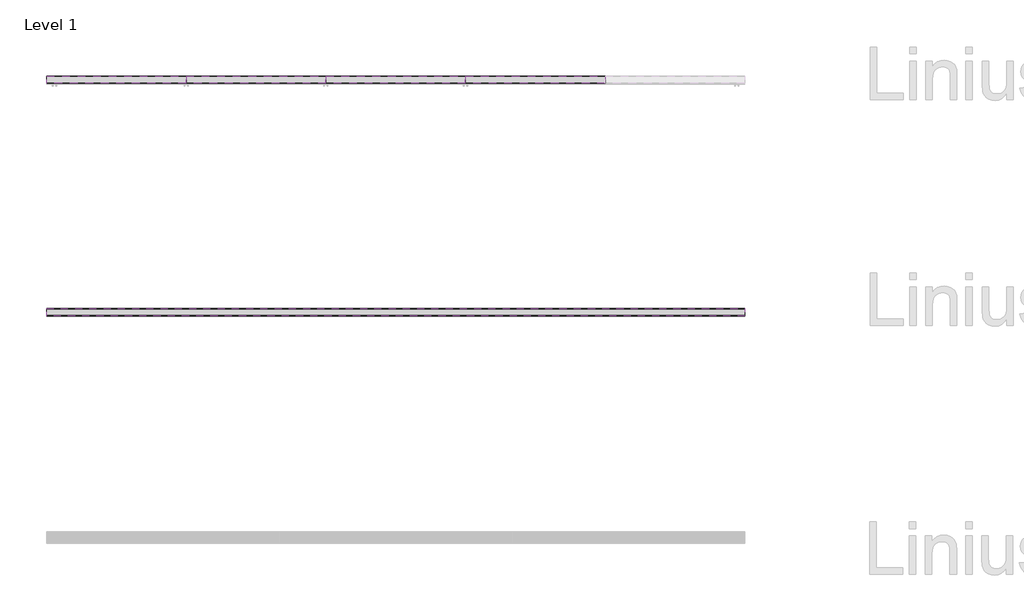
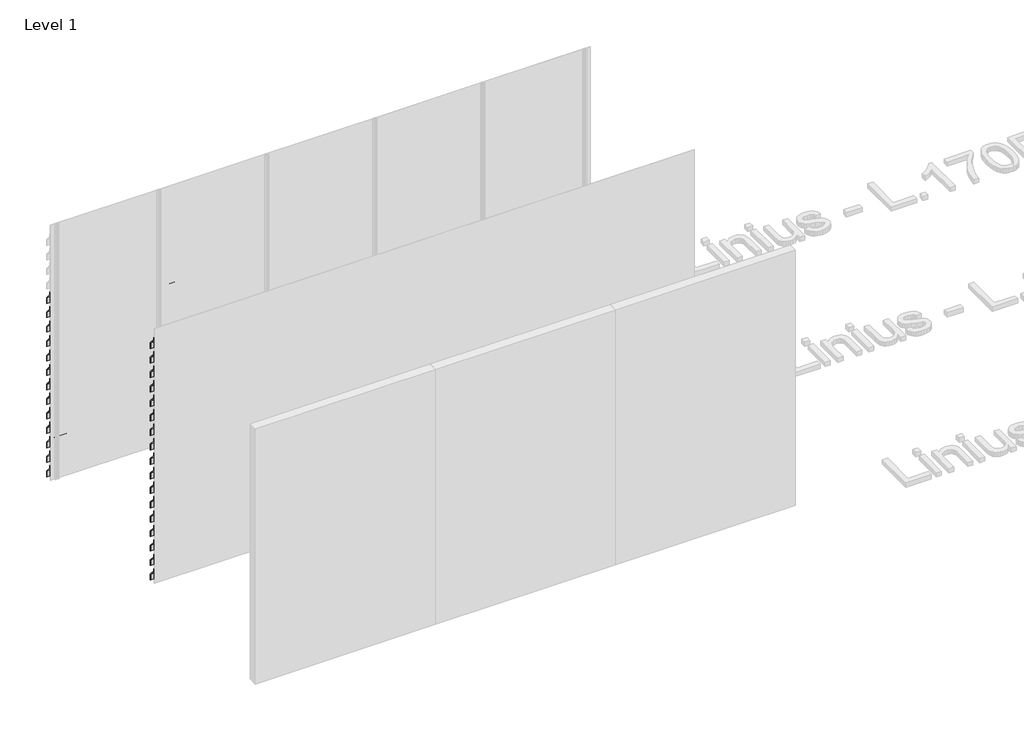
# One storey, part 114 of 121: 84 proxies.
"""IFC4 building model written with IfcOpenShell, lengths in millimetres."""

from ifc_helpers import new_model, si_unit, frame, origin, place, context, project, spatial, polyline, outline, extrude, element, save

model = new_model("IFC4")

# Units and contexts
model_context = context("Model", 3, world=origin())
ifc_project = project(units=[si_unit("LENGTHUNIT", "METRE", prefix="MILLI")], contexts=[model_context])

# Site, building, storey
site = spatial("IfcSite", under=ifc_project)
building = spatial("IfcBuilding", under=site)
storey = spatial("IfcBuildingStorey", under=building, Name="Level 1", Elevation=0.0)

# Proxies
placement = place(None, origin())
element("IfcBuildingElementProxy", 1, Name="Wall Sweeps", at=placement, inside=storey, context=model_context, shape_type="SweptSolid", body=[
    extrude(outline(polyline([(66552.5540136, 2109.0), (66552.5540136, 2040.0), (66550.5540136, 2040.9326153), (66550.5540136, 2108.2698755), (66490.0540136, 2180.0893276), (66490.0540136, 2210.0), (66492.0540136, 2210.0), (66492.0540136, 2180.8194521), (66552.5540136, 2109.0)])), frame((89466.6208097, 0.0, 0.0), z_axis=(1.0, 0.0, 0.0), x_axis=(0.0, 1.0, 0.0)), (0.0, 0.0, 1.0), 1200.0000002),
])
element("IfcBuildingElementProxy", 2, Name="Wall Sweeps", at=placement, inside=storey, context=model_context, shape_type="SweptSolid", body=[
    extrude(outline(polyline([(66552.5540136, 1939.0), (66552.5540136, 1870.0), (66550.5540136, 1870.9326153), (66550.5540136, 1938.2698755), (66490.0540136, 2010.0893276), (66490.0540136, 2040.0), (66492.0540136, 2040.0), (66492.0540136, 2010.8194521), (66552.5540136, 1939.0)])), frame((89466.6208097, 0.0, 0.0), z_axis=(1.0, 0.0, 0.0), x_axis=(0.0, 1.0, 0.0)), (0.0, 0.0, 1.0), 1200.0000002),
])
element("IfcBuildingElementProxy", 3, Name="Wall Sweeps", at=placement, inside=storey, context=model_context, shape_type="SweptSolid", body=[
    extrude(outline(polyline([(66552.5540136, 1769.0), (66552.5540136, 1700.0), (66550.5540136, 1700.9326153), (66550.5540136, 1768.2698755), (66490.0540136, 1840.0893276), (66490.0540136, 1870.0), (66492.0540136, 1870.0), (66492.0540136, 1840.8194521), (66552.5540136, 1769.0)])), frame((89466.6208097, 0.0, 0.0), z_axis=(1.0, 0.0, 0.0), x_axis=(0.0, 1.0, 0.0)), (0.0, 0.0, 1.0), 1200.0000002),
])
element("IfcBuildingElementProxy", 4, Name="Wall Sweeps", at=placement, inside=storey, context=model_context, shape_type="SweptSolid", body=[
    extrude(outline(polyline([(66552.5540136, 1599.0), (66552.5540136, 1530.0), (66550.5540136, 1530.9326153), (66550.5540136, 1598.2698755), (66490.0540136, 1670.0893276), (66490.0540136, 1700.0), (66492.0540136, 1700.0), (66492.0540136, 1670.8194521), (66552.5540136, 1599.0)])), frame((89466.6208097, 0.0, 0.0), z_axis=(1.0, 0.0, 0.0), x_axis=(0.0, 1.0, 0.0)), (0.0, 0.0, 1.0), 1200.0000002),
])
element("IfcBuildingElementProxy", 5, Name="Wall Sweeps", at=placement, inside=storey, context=model_context, shape_type="SweptSolid", body=[
    extrude(outline(polyline([(66552.5540136, 1429.0), (66552.5540136, 1360.0), (66550.5540136, 1360.9326153), (66550.5540136, 1428.2698755), (66490.0540136, 1500.0893276), (66490.0540136, 1530.0), (66492.0540136, 1530.0), (66492.0540136, 1500.8194521), (66552.5540136, 1429.0)])), frame((89466.6208097, 0.0, 0.0), z_axis=(1.0, 0.0, 0.0), x_axis=(0.0, 1.0, 0.0)), (0.0, 0.0, 1.0), 1200.0000002),
])
element("IfcBuildingElementProxy", 6, Name="Wall Sweeps", at=placement, inside=storey, context=model_context, shape_type="SweptSolid", body=[
    extrude(outline(polyline([(66552.5540136, 1259.0), (66552.5540136, 1190.0), (66550.5540136, 1190.9326153), (66550.5540136, 1258.2698755), (66490.0540136, 1330.0893276), (66490.0540136, 1360.0), (66492.0540136, 1360.0), (66492.0540136, 1330.8194521), (66552.5540136, 1259.0)])), frame((89466.6208097, 0.0, 0.0), z_axis=(1.0, 0.0, 0.0), x_axis=(0.0, 1.0, 0.0)), (0.0, 0.0, 1.0), 1200.0000002),
])
element("IfcBuildingElementProxy", 7, Name="Wall Sweeps", at=placement, inside=storey, context=model_context, shape_type="SweptSolid", body=[
    extrude(outline(polyline([(66552.5540136, 1089.0), (66552.5540136, 1020.0), (66550.5540136, 1020.9326153), (66550.5540136, 1088.2698755), (66490.0540136, 1160.0893276), (66490.0540136, 1190.0), (66492.0540136, 1190.0), (66492.0540136, 1160.8194521), (66552.5540136, 1089.0)])), frame((89466.6208097, 0.0, 0.0), z_axis=(1.0, 0.0, 0.0), x_axis=(0.0, 1.0, 0.0)), (0.0, 0.0, 1.0), 1200.0000002),
])
element("IfcBuildingElementProxy", 8, Name="Wall Sweeps", at=placement, inside=storey, context=model_context, shape_type="SweptSolid", body=[
    extrude(outline(polyline([(66552.5540136, 919.0), (66552.5540136, 850.0), (66550.5540136, 850.9326153), (66550.5540136, 918.2698755), (66490.0540136, 990.0893276), (66490.0540136, 1020.0), (66492.0540136, 1020.0), (66492.0540136, 990.8194521), (66552.5540136, 919.0)])), frame((89466.6208097, 0.0, 0.0), z_axis=(1.0, 0.0, 0.0), x_axis=(0.0, 1.0, 0.0)), (0.0, 0.0, 1.0), 1200.0000002),
])
element("IfcBuildingElementProxy", 9, Name="Wall Sweeps", at=placement, inside=storey, context=model_context, shape_type="SweptSolid", body=[
    extrude(outline(polyline([(66552.5540136, 749.0), (66552.5540136, 680.0), (66550.5540136, 680.9326153), (66550.5540136, 748.2698755), (66490.0540136, 820.0893276), (66490.0540136, 850.0), (66492.0540136, 850.0), (66492.0540136, 820.8194521), (66552.5540136, 749.0)])), frame((89466.6208097, 0.0, 0.0), z_axis=(1.0, 0.0, 0.0), x_axis=(0.0, 1.0, 0.0)), (0.0, 0.0, 1.0), 1200.0000002),
])
element("IfcBuildingElementProxy", 10, Name="Wall Sweeps", at=placement, inside=storey, context=model_context, shape_type="SweptSolid", body=[
    extrude(outline(polyline([(66552.5540136, 579.0), (66552.5540136, 510.0), (66550.5540136, 510.9326153), (66550.5540136, 578.2698755), (66490.0540136, 650.0893276), (66490.0540136, 680.0), (66492.0540136, 680.0), (66492.0540136, 650.8194521), (66552.5540136, 579.0)])), frame((89466.6208097, 0.0, 0.0), z_axis=(1.0, 0.0, 0.0), x_axis=(0.0, 1.0, 0.0)), (0.0, 0.0, 1.0), 1200.0000002),
])
element("IfcBuildingElementProxy", 11, Name="Wall Sweeps", at=placement, inside=storey, context=model_context, shape_type="SweptSolid", body=[
    extrude(outline(polyline([(66552.5540136, 409.0), (66552.5540136, 340.0), (66550.5540136, 340.9326153), (66550.5540136, 408.2698755), (66490.0540136, 480.0893276), (66490.0540136, 510.0), (66492.0540136, 510.0), (66492.0540136, 480.8194521), (66552.5540136, 409.0)])), frame((89466.6208097, 0.0, 0.0), z_axis=(1.0, 0.0, 0.0), x_axis=(0.0, 1.0, 0.0)), (0.0, 0.0, 1.0), 1200.0000002),
])
element("IfcBuildingElementProxy", 12, Name="Wall Sweeps", at=placement, inside=storey, context=model_context, shape_type="SweptSolid", body=[
    extrude(outline(polyline([(66552.5540136, 239.0), (66552.5540136, 170.0), (66550.5540136, 170.9326153), (66550.5540136, 238.2698755), (66490.0540136, 310.0893276), (66490.0540136, 340.0), (66492.0540136, 340.0), (66492.0540136, 310.8194521), (66552.5540136, 239.0)])), frame((89466.6208097, 0.0, 0.0), z_axis=(1.0, 0.0, 0.0), x_axis=(0.0, 1.0, 0.0)), (0.0, 0.0, 1.0), 1200.0000002),
])
element("IfcBuildingElementProxy", 13, Name="Wall Sweeps", at=placement, inside=storey, context=model_context, shape_type="SweptSolid", body=[
    extrude(outline(polyline([(66552.5540136, 69.0), (66552.5540136, 0.0), (66550.5540136, 0.9326153), (66550.5540136, 68.2698755), (66490.0540136, 140.0893276), (66490.0540136, 170.0), (66492.0540136, 170.0), (66492.0540136, 140.8194521), (66552.5540136, 69.0)])), frame((89466.6208097, 0.0, 0.0), z_axis=(1.0, 0.0, 0.0), x_axis=(0.0, 1.0, 0.0)), (0.0, 0.0, 1.0), 1200.0000002),
])
element("IfcBuildingElementProxy", 14, Name="Wall Sweeps", at=placement, inside=storey, context=model_context, shape_type="SweptSolid", body=[
    extrude(outline(polyline([(66552.5540136, 2789.0), (66552.5540136, 2720.0), (66550.5540136, 2720.9326153), (66550.5540136, 2788.2698755), (66490.0540136, 2860.0893276), (66490.0540136, 2890.0), (66492.0540136, 2890.0), (66492.0540136, 2860.8194521), (66552.5540136, 2789.0)])), frame((90666.6208099, 0.0, 0.0), z_axis=(1.0, 0.0, 0.0), x_axis=(0.0, 1.0, 0.0)), (0.0, 0.0, 1.0), 1199.9999999),
])
element("IfcBuildingElementProxy", 15, Name="Wall Sweeps", at=placement, inside=storey, context=model_context, shape_type="SweptSolid", body=[
    extrude(outline(polyline([(66552.5540136, 2619.0), (66552.5540136, 2550.0), (66550.5540136, 2550.9326153), (66550.5540136, 2618.2698755), (66490.0540136, 2690.0893276), (66490.0540136, 2720.0), (66492.0540136, 2720.0), (66492.0540136, 2690.8194521), (66552.5540136, 2619.0)])), frame((90666.6208099, 0.0, 0.0), z_axis=(1.0, 0.0, 0.0), x_axis=(0.0, 1.0, 0.0)), (0.0, 0.0, 1.0), 1199.9999999),
])
element("IfcBuildingElementProxy", 16, Name="Wall Sweeps", at=placement, inside=storey, context=model_context, shape_type="SweptSolid", body=[
    extrude(outline(polyline([(66552.5540136, 2449.0), (66552.5540136, 2380.0), (66550.5540136, 2380.9326153), (66550.5540136, 2448.2698755), (66490.0540136, 2520.0893276), (66490.0540136, 2550.0), (66492.0540136, 2550.0), (66492.0540136, 2520.8194521), (66552.5540136, 2449.0)])), frame((90666.6208099, 0.0, 0.0), z_axis=(1.0, 0.0, 0.0), x_axis=(0.0, 1.0, 0.0)), (0.0, 0.0, 1.0), 1199.9999999),
])
element("IfcBuildingElementProxy", 17, Name="Wall Sweeps", at=placement, inside=storey, context=model_context, shape_type="SweptSolid", body=[
    extrude(outline(polyline([(66552.5540136, 2279.0), (66552.5540136, 2210.0), (66550.5540136, 2210.9326153), (66550.5540136, 2278.2698755), (66490.0540136, 2350.0893276), (66490.0540136, 2380.0), (66492.0540136, 2380.0), (66492.0540136, 2350.8194521), (66552.5540136, 2279.0)])), frame((90666.6208099, 0.0, 0.0), z_axis=(1.0, 0.0, 0.0), x_axis=(0.0, 1.0, 0.0)), (0.0, 0.0, 1.0), 1199.9999999),
])
element("IfcBuildingElementProxy", 18, Name="Wall Sweeps", at=placement, inside=storey, context=model_context, shape_type="SweptSolid", body=[
    extrude(outline(polyline([(66552.5540136, 2109.0), (66552.5540136, 2040.0), (66550.5540136, 2040.9326153), (66550.5540136, 2108.2698755), (66490.0540136, 2180.0893276), (66490.0540136, 2210.0), (66492.0540136, 2210.0), (66492.0540136, 2180.8194521), (66552.5540136, 2109.0)])), frame((90666.6208099, 0.0, 0.0), z_axis=(1.0, 0.0, 0.0), x_axis=(0.0, 1.0, 0.0)), (0.0, 0.0, 1.0), 1199.9999999),
])
element("IfcBuildingElementProxy", 19, Name="Wall Sweeps", at=placement, inside=storey, context=model_context, shape_type="SweptSolid", body=[
    extrude(outline(polyline([(66552.5540136, 1939.0), (66552.5540136, 1870.0), (66550.5540136, 1870.9326153), (66550.5540136, 1938.2698755), (66490.0540136, 2010.0893276), (66490.0540136, 2040.0), (66492.0540136, 2040.0), (66492.0540136, 2010.8194521), (66552.5540136, 1939.0)])), frame((90666.6208099, 0.0, 0.0), z_axis=(1.0, 0.0, 0.0), x_axis=(0.0, 1.0, 0.0)), (0.0, 0.0, 1.0), 1199.9999999),
])
element("IfcBuildingElementProxy", 20, Name="Wall Sweeps", at=placement, inside=storey, context=model_context, shape_type="SweptSolid", body=[
    extrude(outline(polyline([(66552.5540136, 1769.0), (66552.5540136, 1700.0), (66550.5540136, 1700.9326153), (66550.5540136, 1768.2698755), (66490.0540136, 1840.0893276), (66490.0540136, 1870.0), (66492.0540136, 1870.0), (66492.0540136, 1840.8194521), (66552.5540136, 1769.0)])), frame((90666.6208099, 0.0, 0.0), z_axis=(1.0, 0.0, 0.0), x_axis=(0.0, 1.0, 0.0)), (0.0, 0.0, 1.0), 1199.9999999),
])
element("IfcBuildingElementProxy", 21, Name="Wall Sweeps", at=placement, inside=storey, context=model_context, shape_type="SweptSolid", body=[
    extrude(outline(polyline([(66552.5540136, 1599.0), (66552.5540136, 1530.0), (66550.5540136, 1530.9326153), (66550.5540136, 1598.2698755), (66490.0540136, 1670.0893276), (66490.0540136, 1700.0), (66492.0540136, 1700.0), (66492.0540136, 1670.8194521), (66552.5540136, 1599.0)])), frame((90666.6208099, 0.0, 0.0), z_axis=(1.0, 0.0, 0.0), x_axis=(0.0, 1.0, 0.0)), (0.0, 0.0, 1.0), 1199.9999999),
])
element("IfcBuildingElementProxy", 22, Name="Wall Sweeps", at=placement, inside=storey, context=model_context, shape_type="SweptSolid", body=[
    extrude(outline(polyline([(66552.5540136, 1429.0), (66552.5540136, 1360.0), (66550.5540136, 1360.9326153), (66550.5540136, 1428.2698755), (66490.0540136, 1500.0893276), (66490.0540136, 1530.0), (66492.0540136, 1530.0), (66492.0540136, 1500.8194521), (66552.5540136, 1429.0)])), frame((90666.6208099, 0.0, 0.0), z_axis=(1.0, 0.0, 0.0), x_axis=(0.0, 1.0, 0.0)), (0.0, 0.0, 1.0), 1199.9999999),
])
element("IfcBuildingElementProxy", 23, Name="Wall Sweeps", at=placement, inside=storey, context=model_context, shape_type="SweptSolid", body=[
    extrude(outline(polyline([(66552.5540136, 1259.0), (66552.5540136, 1190.0), (66550.5540136, 1190.9326153), (66550.5540136, 1258.2698755), (66490.0540136, 1330.0893276), (66490.0540136, 1360.0), (66492.0540136, 1360.0), (66492.0540136, 1330.8194521), (66552.5540136, 1259.0)])), frame((90666.6208099, 0.0, 0.0), z_axis=(1.0, 0.0, 0.0), x_axis=(0.0, 1.0, 0.0)), (0.0, 0.0, 1.0), 1199.9999999),
])
element("IfcBuildingElementProxy", 24, Name="Wall Sweeps", at=placement, inside=storey, context=model_context, shape_type="SweptSolid", body=[
    extrude(outline(polyline([(66552.5540136, 1089.0), (66552.5540136, 1020.0), (66550.5540136, 1020.9326153), (66550.5540136, 1088.2698755), (66490.0540136, 1160.0893276), (66490.0540136, 1190.0), (66492.0540136, 1190.0), (66492.0540136, 1160.8194521), (66552.5540136, 1089.0)])), frame((90666.6208099, 0.0, 0.0), z_axis=(1.0, 0.0, 0.0), x_axis=(0.0, 1.0, 0.0)), (0.0, 0.0, 1.0), 1199.9999999),
])
element("IfcBuildingElementProxy", 25, Name="Wall Sweeps", at=placement, inside=storey, context=model_context, shape_type="SweptSolid", body=[
    extrude(outline(polyline([(66552.5540136, 919.0), (66552.5540136, 850.0), (66550.5540136, 850.9326153), (66550.5540136, 918.2698755), (66490.0540136, 990.0893276), (66490.0540136, 1020.0), (66492.0540136, 1020.0), (66492.0540136, 990.8194521), (66552.5540136, 919.0)])), frame((90666.6208099, 0.0, 0.0), z_axis=(1.0, 0.0, 0.0), x_axis=(0.0, 1.0, 0.0)), (0.0, 0.0, 1.0), 1199.9999999),
])
element("IfcBuildingElementProxy", 26, Name="Wall Sweeps", at=placement, inside=storey, context=model_context, shape_type="SweptSolid", body=[
    extrude(outline(polyline([(66552.5540136, 749.0), (66552.5540136, 680.0), (66550.5540136, 680.9326153), (66550.5540136, 748.2698755), (66490.0540136, 820.0893276), (66490.0540136, 850.0), (66492.0540136, 850.0), (66492.0540136, 820.8194521), (66552.5540136, 749.0)])), frame((90666.6208099, 0.0, 0.0), z_axis=(1.0, 0.0, 0.0), x_axis=(0.0, 1.0, 0.0)), (0.0, 0.0, 1.0), 1199.9999999),
])
element("IfcBuildingElementProxy", 27, Name="Wall Sweeps", at=placement, inside=storey, context=model_context, shape_type="SweptSolid", body=[
    extrude(outline(polyline([(66552.5540136, 579.0), (66552.5540136, 510.0), (66550.5540136, 510.9326153), (66550.5540136, 578.2698755), (66490.0540136, 650.0893276), (66490.0540136, 680.0), (66492.0540136, 680.0), (66492.0540136, 650.8194521), (66552.5540136, 579.0)])), frame((90666.6208099, 0.0, 0.0), z_axis=(1.0, 0.0, 0.0), x_axis=(0.0, 1.0, 0.0)), (0.0, 0.0, 1.0), 1199.9999999),
])
element("IfcBuildingElementProxy", 28, Name="Wall Sweeps", at=placement, inside=storey, context=model_context, shape_type="SweptSolid", body=[
    extrude(outline(polyline([(66552.5540136, 409.0), (66552.5540136, 340.0), (66550.5540136, 340.9326153), (66550.5540136, 408.2698755), (66490.0540136, 480.0893276), (66490.0540136, 510.0), (66492.0540136, 510.0), (66492.0540136, 480.8194521), (66552.5540136, 409.0)])), frame((90666.6208099, 0.0, 0.0), z_axis=(1.0, 0.0, 0.0), x_axis=(0.0, 1.0, 0.0)), (0.0, 0.0, 1.0), 1199.9999999),
])
element("IfcBuildingElementProxy", 29, Name="Wall Sweeps", at=placement, inside=storey, context=model_context, shape_type="SweptSolid", body=[
    extrude(outline(polyline([(66552.5540136, 239.0), (66552.5540136, 170.0), (66550.5540136, 170.9326153), (66550.5540136, 238.2698755), (66490.0540136, 310.0893276), (66490.0540136, 340.0), (66492.0540136, 340.0), (66492.0540136, 310.8194521), (66552.5540136, 239.0)])), frame((90666.6208099, 0.0, 0.0), z_axis=(1.0, 0.0, 0.0), x_axis=(0.0, 1.0, 0.0)), (0.0, 0.0, 1.0), 1199.9999999),
])
element("IfcBuildingElementProxy", 30, Name="Wall Sweeps", at=placement, inside=storey, context=model_context, shape_type="SweptSolid", body=[
    extrude(outline(polyline([(66552.5540136, 69.0), (66552.5540136, 0.0), (66550.5540136, 0.9326153), (66550.5540136, 68.2698755), (66490.0540136, 140.0893276), (66490.0540136, 170.0), (66492.0540136, 170.0), (66492.0540136, 140.8194521), (66552.5540136, 69.0)])), frame((90666.6208099, 0.0, 0.0), z_axis=(1.0, 0.0, 0.0), x_axis=(0.0, 1.0, 0.0)), (0.0, 0.0, 1.0), 1199.9999999),
])
element("IfcBuildingElementProxy", 31, Name="Wall Sweeps", at=placement, inside=storey, context=model_context, shape_type="SweptSolid", body=[
    extrude(outline(polyline([(66552.5540136, 2789.0), (66552.5540136, 2720.0), (66550.5540136, 2720.9326153), (66550.5540136, 2788.2698755), (66490.0540136, 2860.0893276), (66490.0540136, 2890.0), (66492.0540136, 2890.0), (66492.0540136, 2860.8194521), (66552.5540136, 2789.0)])), frame((94266.6208095, 0.0, 0.0), z_axis=(1.0, 0.0, 0.0), x_axis=(0.0, 1.0, 0.0)), (0.0, 0.0, 1.0), 1200.0000002),
])
element("IfcBuildingElementProxy", 32, Name="Wall Sweeps", at=placement, inside=storey, context=model_context, shape_type="SweptSolid", body=[
    extrude(outline(polyline([(66552.5540136, 2619.0), (66552.5540136, 2550.0), (66550.5540136, 2550.9326153), (66550.5540136, 2618.2698755), (66490.0540136, 2690.0893276), (66490.0540136, 2720.0), (66492.0540136, 2720.0), (66492.0540136, 2690.8194521), (66552.5540136, 2619.0)])), frame((94266.6208095, 0.0, 0.0), z_axis=(1.0, 0.0, 0.0), x_axis=(0.0, 1.0, 0.0)), (0.0, 0.0, 1.0), 1200.0000002),
])
element("IfcBuildingElementProxy", 33, Name="Wall Sweeps", at=placement, inside=storey, context=model_context, shape_type="SweptSolid", body=[
    extrude(outline(polyline([(66552.5540136, 2449.0), (66552.5540136, 2380.0), (66550.5540136, 2380.9326153), (66550.5540136, 2448.2698755), (66490.0540136, 2520.0893276), (66490.0540136, 2550.0), (66492.0540136, 2550.0), (66492.0540136, 2520.8194521), (66552.5540136, 2449.0)])), frame((94266.6208095, 0.0, 0.0), z_axis=(1.0, 0.0, 0.0), x_axis=(0.0, 1.0, 0.0)), (0.0, 0.0, 1.0), 1200.0000002),
])
element("IfcBuildingElementProxy", 34, Name="Wall Sweeps", at=placement, inside=storey, context=model_context, shape_type="SweptSolid", body=[
    extrude(outline(polyline([(64552.5540136, 2789.0), (64552.5540136, 2720.0), (64550.5540136, 2720.9326153), (64550.5540136, 2788.2698755), (64490.0540136, 2860.0893276), (64490.0540136, 2890.0), (64492.0540136, 2890.0), (64492.0540136, 2860.8194521), (64552.5540136, 2789.0)])), frame((89466.6208097, 0.0, 0.0), z_axis=(1.0, 0.0, 0.0), x_axis=(0.0, 1.0, 0.0)), (0.0, 0.0, 1.0), 6000.0),
])
element("IfcBuildingElementProxy", 35, Name="Wall Sweeps", at=placement, inside=storey, context=model_context, shape_type="SweptSolid", body=[
    extrude(outline(polyline([(64552.5540136, 2619.0), (64552.5540136, 2550.0), (64550.5540136, 2550.9326153), (64550.5540136, 2618.2698755), (64490.0540136, 2690.0893276), (64490.0540136, 2720.0), (64492.0540136, 2720.0), (64492.0540136, 2690.8194521), (64552.5540136, 2619.0)])), frame((89466.6208097, 0.0, 0.0), z_axis=(1.0, 0.0, 0.0), x_axis=(0.0, 1.0, 0.0)), (0.0, 0.0, 1.0), 6000.0),
])
element("IfcBuildingElementProxy", 36, Name="Wall Sweeps", at=placement, inside=storey, context=model_context, shape_type="SweptSolid", body=[
    extrude(outline(polyline([(64552.5540136, 2449.0), (64552.5540136, 2380.0), (64550.5540136, 2380.9326153), (64550.5540136, 2448.2698755), (64490.0540136, 2520.0893276), (64490.0540136, 2550.0), (64492.0540136, 2550.0), (64492.0540136, 2520.8194521), (64552.5540136, 2449.0)])), frame((89466.6208097, 0.0, 0.0), z_axis=(1.0, 0.0, 0.0), x_axis=(0.0, 1.0, 0.0)), (0.0, 0.0, 1.0), 6000.0),
])
element("IfcBuildingElementProxy", 37, Name="Wall Sweeps", at=placement, inside=storey, context=model_context, shape_type="SweptSolid", body=[
    extrude(outline(polyline([(64552.5540136, 2279.0), (64552.5540136, 2210.0), (64550.5540136, 2210.9326153), (64550.5540136, 2278.2698755), (64490.0540136, 2350.0893276), (64490.0540136, 2380.0), (64492.0540136, 2380.0), (64492.0540136, 2350.8194521), (64552.5540136, 2279.0)])), frame((89466.6208097, 0.0, 0.0), z_axis=(1.0, 0.0, 0.0), x_axis=(0.0, 1.0, 0.0)), (0.0, 0.0, 1.0), 6000.0),
])
element("IfcBuildingElementProxy", 38, Name="Wall Sweeps", at=placement, inside=storey, context=model_context, shape_type="SweptSolid", body=[
    extrude(outline(polyline([(64552.5540136, 2109.0), (64552.5540136, 2040.0), (64550.5540136, 2040.9326153), (64550.5540136, 2108.2698755), (64490.0540136, 2180.0893276), (64490.0540136, 2210.0), (64492.0540136, 2210.0), (64492.0540136, 2180.8194521), (64552.5540136, 2109.0)])), frame((89466.6208097, 0.0, 0.0), z_axis=(1.0, 0.0, 0.0), x_axis=(0.0, 1.0, 0.0)), (0.0, 0.0, 1.0), 6000.0),
])
element("IfcBuildingElementProxy", 39, Name="Wall Sweeps", at=placement, inside=storey, context=model_context, shape_type="SweptSolid", body=[
    extrude(outline(polyline([(64552.5540136, 1939.0), (64552.5540136, 1870.0), (64550.5540136, 1870.9326153), (64550.5540136, 1938.2698755), (64490.0540136, 2010.0893276), (64490.0540136, 2040.0), (64492.0540136, 2040.0), (64492.0540136, 2010.8194521), (64552.5540136, 1939.0)])), frame((89466.6208097, 0.0, 0.0), z_axis=(1.0, 0.0, 0.0), x_axis=(0.0, 1.0, 0.0)), (0.0, 0.0, 1.0), 6000.0),
])
element("IfcBuildingElementProxy", 40, Name="Wall Sweeps", at=placement, inside=storey, context=model_context, shape_type="SweptSolid", body=[
    extrude(outline(polyline([(64552.5540136, 1769.0), (64552.5540136, 1700.0), (64550.5540136, 1700.9326153), (64550.5540136, 1768.2698755), (64490.0540136, 1840.0893276), (64490.0540136, 1870.0), (64492.0540136, 1870.0), (64492.0540136, 1840.8194521), (64552.5540136, 1769.0)])), frame((89466.6208097, 0.0, 0.0), z_axis=(1.0, 0.0, 0.0), x_axis=(0.0, 1.0, 0.0)), (0.0, 0.0, 1.0), 6000.0),
])
element("IfcBuildingElementProxy", 41, Name="Wall Sweeps", at=placement, inside=storey, context=model_context, shape_type="SweptSolid", body=[
    extrude(outline(polyline([(64552.5540136, 1599.0), (64552.5540136, 1530.0), (64550.5540136, 1530.9326153), (64550.5540136, 1598.2698755), (64490.0540136, 1670.0893276), (64490.0540136, 1700.0), (64492.0540136, 1700.0), (64492.0540136, 1670.8194521), (64552.5540136, 1599.0)])), frame((89466.6208097, 0.0, 0.0), z_axis=(1.0, 0.0, 0.0), x_axis=(0.0, 1.0, 0.0)), (0.0, 0.0, 1.0), 6000.0),
])
element("IfcBuildingElementProxy", 42, Name="Wall Sweeps", at=placement, inside=storey, context=model_context, shape_type="SweptSolid", body=[
    extrude(outline(polyline([(64552.5540136, 1429.0), (64552.5540136, 1360.0), (64550.5540136, 1360.9326153), (64550.5540136, 1428.2698755), (64490.0540136, 1500.0893276), (64490.0540136, 1530.0), (64492.0540136, 1530.0), (64492.0540136, 1500.8194521), (64552.5540136, 1429.0)])), frame((89466.6208097, 0.0, 0.0), z_axis=(1.0, 0.0, 0.0), x_axis=(0.0, 1.0, 0.0)), (0.0, 0.0, 1.0), 6000.0),
])
element("IfcBuildingElementProxy", 43, Name="Wall Sweeps", at=placement, inside=storey, context=model_context, shape_type="SweptSolid", body=[
    extrude(outline(polyline([(64552.5540136, 1259.0), (64552.5540136, 1190.0), (64550.5540136, 1190.9326153), (64550.5540136, 1258.2698755), (64490.0540136, 1330.0893276), (64490.0540136, 1360.0), (64492.0540136, 1360.0), (64492.0540136, 1330.8194521), (64552.5540136, 1259.0)])), frame((89466.6208097, 0.0, 0.0), z_axis=(1.0, 0.0, 0.0), x_axis=(0.0, 1.0, 0.0)), (0.0, 0.0, 1.0), 6000.0),
])
element("IfcBuildingElementProxy", 44, Name="Wall Sweeps", at=placement, inside=storey, context=model_context, shape_type="SweptSolid", body=[
    extrude(outline(polyline([(64552.5540136, 1089.0), (64552.5540136, 1020.0), (64550.5540136, 1020.9326153), (64550.5540136, 1088.2698755), (64490.0540136, 1160.0893276), (64490.0540136, 1190.0), (64492.0540136, 1190.0), (64492.0540136, 1160.8194521), (64552.5540136, 1089.0)])), frame((89466.6208097, 0.0, 0.0), z_axis=(1.0, 0.0, 0.0), x_axis=(0.0, 1.0, 0.0)), (0.0, 0.0, 1.0), 6000.0),
])
element("IfcBuildingElementProxy", 45, Name="Wall Sweeps", at=placement, inside=storey, context=model_context, shape_type="SweptSolid", body=[
    extrude(outline(polyline([(64552.5540136, 919.0), (64552.5540136, 850.0), (64550.5540136, 850.9326153), (64550.5540136, 918.2698755), (64490.0540136, 990.0893276), (64490.0540136, 1020.0), (64492.0540136, 1020.0), (64492.0540136, 990.8194521), (64552.5540136, 919.0)])), frame((89466.6208097, 0.0, 0.0), z_axis=(1.0, 0.0, 0.0), x_axis=(0.0, 1.0, 0.0)), (0.0, 0.0, 1.0), 6000.0),
])
element("IfcBuildingElementProxy", 46, Name="Wall Sweeps", at=placement, inside=storey, context=model_context, shape_type="SweptSolid", body=[
    extrude(outline(polyline([(64552.5540136, 749.0), (64552.5540136, 680.0), (64550.5540136, 680.9326153), (64550.5540136, 748.2698755), (64490.0540136, 820.0893276), (64490.0540136, 850.0), (64492.0540136, 850.0), (64492.0540136, 820.8194521), (64552.5540136, 749.0)])), frame((89466.6208097, 0.0, 0.0), z_axis=(1.0, 0.0, 0.0), x_axis=(0.0, 1.0, 0.0)), (0.0, 0.0, 1.0), 6000.0),
])
element("IfcBuildingElementProxy", 47, Name="Wall Sweeps", at=placement, inside=storey, context=model_context, shape_type="SweptSolid", body=[
    extrude(outline(polyline([(64552.5540136, 579.0), (64552.5540136, 510.0), (64550.5540136, 510.9326153), (64550.5540136, 578.2698755), (64490.0540136, 650.0893276), (64490.0540136, 680.0), (64492.0540136, 680.0), (64492.0540136, 650.8194521), (64552.5540136, 579.0)])), frame((89466.6208097, 0.0, 0.0), z_axis=(1.0, 0.0, 0.0), x_axis=(0.0, 1.0, 0.0)), (0.0, 0.0, 1.0), 6000.0),
])
element("IfcBuildingElementProxy", 48, Name="Wall Sweeps", at=placement, inside=storey, context=model_context, shape_type="SweptSolid", body=[
    extrude(outline(polyline([(64552.5540136, 409.0), (64552.5540136, 340.0), (64550.5540136, 340.9326153), (64550.5540136, 408.2698755), (64490.0540136, 480.0893276), (64490.0540136, 510.0), (64492.0540136, 510.0), (64492.0540136, 480.8194521), (64552.5540136, 409.0)])), frame((89466.6208097, 0.0, 0.0), z_axis=(1.0, 0.0, 0.0), x_axis=(0.0, 1.0, 0.0)), (0.0, 0.0, 1.0), 6000.0),
])
element("IfcBuildingElementProxy", 49, Name="Wall Sweeps", at=placement, inside=storey, context=model_context, shape_type="SweptSolid", body=[
    extrude(outline(polyline([(64552.5540136, 239.0), (64552.5540136, 170.0), (64550.5540136, 170.9326153), (64550.5540136, 238.2698755), (64490.0540136, 310.0893276), (64490.0540136, 340.0), (64492.0540136, 340.0), (64492.0540136, 310.8194521), (64552.5540136, 239.0)])), frame((89466.6208097, 0.0, 0.0), z_axis=(1.0, 0.0, 0.0), x_axis=(0.0, 1.0, 0.0)), (0.0, 0.0, 1.0), 6000.0),
])
element("IfcBuildingElementProxy", 50, Name="Wall Sweeps", at=placement, inside=storey, context=model_context, shape_type="SweptSolid", body=[
    extrude(outline(polyline([(64552.5540136, 69.0), (64552.5540136, 0.0), (64550.5540136, 0.9326153), (64550.5540136, 68.2698755), (64490.0540136, 140.0893276), (64490.0540136, 170.0), (64492.0540136, 170.0), (64492.0540136, 140.8194521), (64552.5540136, 69.0)])), frame((89466.6208097, 0.0, 0.0), z_axis=(1.0, 0.0, 0.0), x_axis=(0.0, 1.0, 0.0)), (0.0, 0.0, 1.0), 6000.0),
])
element("IfcBuildingElementProxy", 51, Name="Wall Sweeps", at=placement, inside=storey, context=model_context, shape_type="SweptSolid", body=[
    extrude(outline(polyline([(66552.5540136, 2789.0), (66552.5540136, 2720.0), (66550.5540136, 2720.9326153), (66550.5540136, 2788.2698755), (66490.0540136, 2860.0893276), (66490.0540136, 2890.0), (66492.0540136, 2890.0), (66492.0540136, 2860.8194521), (66552.5540136, 2789.0)])), frame((91866.6208097, 0.0, 0.0), z_axis=(1.0, 0.0, 0.0), x_axis=(0.0, 1.0, 0.0)), (0.0, 0.0, 1.0), 1199.9999999),
])
element("IfcBuildingElementProxy", 52, Name="Wall Sweeps", at=placement, inside=storey, context=model_context, shape_type="SweptSolid", body=[
    extrude(outline(polyline([(66552.5540136, 2619.0), (66552.5540136, 2550.0), (66550.5540136, 2550.9326153), (66550.5540136, 2618.2698755), (66490.0540136, 2690.0893276), (66490.0540136, 2720.0), (66492.0540136, 2720.0), (66492.0540136, 2690.8194521), (66552.5540136, 2619.0)])), frame((91866.6208097, 0.0, 0.0), z_axis=(1.0, 0.0, 0.0), x_axis=(0.0, 1.0, 0.0)), (0.0, 0.0, 1.0), 1199.9999999),
])
element("IfcBuildingElementProxy", 53, Name="Wall Sweeps", at=placement, inside=storey, context=model_context, shape_type="SweptSolid", body=[
    extrude(outline(polyline([(66552.5540136, 2449.0), (66552.5540136, 2380.0), (66550.5540136, 2380.9326153), (66550.5540136, 2448.2698755), (66490.0540136, 2520.0893276), (66490.0540136, 2550.0), (66492.0540136, 2550.0), (66492.0540136, 2520.8194521), (66552.5540136, 2449.0)])), frame((91866.6208097, 0.0, 0.0), z_axis=(1.0, 0.0, 0.0), x_axis=(0.0, 1.0, 0.0)), (0.0, 0.0, 1.0), 1199.9999999),
])
element("IfcBuildingElementProxy", 54, Name="Wall Sweeps", at=placement, inside=storey, context=model_context, shape_type="SweptSolid", body=[
    extrude(outline(polyline([(66552.5540136, 2279.0), (66552.5540136, 2210.0), (66550.5540136, 2210.9326153), (66550.5540136, 2278.2698755), (66490.0540136, 2350.0893276), (66490.0540136, 2380.0), (66492.0540136, 2380.0), (66492.0540136, 2350.8194521), (66552.5540136, 2279.0)])), frame((91866.6208097, 0.0, 0.0), z_axis=(1.0, 0.0, 0.0), x_axis=(0.0, 1.0, 0.0)), (0.0, 0.0, 1.0), 1199.9999999),
])
element("IfcBuildingElementProxy", 55, Name="Wall Sweeps", at=placement, inside=storey, context=model_context, shape_type="SweptSolid", body=[
    extrude(outline(polyline([(66552.5540136, 2109.0), (66552.5540136, 2040.0), (66550.5540136, 2040.9326153), (66550.5540136, 2108.2698755), (66490.0540136, 2180.0893276), (66490.0540136, 2210.0), (66492.0540136, 2210.0), (66492.0540136, 2180.8194521), (66552.5540136, 2109.0)])), frame((91866.6208097, 0.0, 0.0), z_axis=(1.0, 0.0, 0.0), x_axis=(0.0, 1.0, 0.0)), (0.0, 0.0, 1.0), 1199.9999999),
])
element("IfcBuildingElementProxy", 56, Name="Wall Sweeps", at=placement, inside=storey, context=model_context, shape_type="SweptSolid", body=[
    extrude(outline(polyline([(66552.5540136, 1939.0), (66552.5540136, 1870.0), (66550.5540136, 1870.9326153), (66550.5540136, 1938.2698755), (66490.0540136, 2010.0893276), (66490.0540136, 2040.0), (66492.0540136, 2040.0), (66492.0540136, 2010.8194521), (66552.5540136, 1939.0)])), frame((91866.6208097, 0.0, 0.0), z_axis=(1.0, 0.0, 0.0), x_axis=(0.0, 1.0, 0.0)), (0.0, 0.0, 1.0), 1199.9999999),
])
element("IfcBuildingElementProxy", 57, Name="Wall Sweeps", at=placement, inside=storey, context=model_context, shape_type="SweptSolid", body=[
    extrude(outline(polyline([(66552.5540136, 1769.0), (66552.5540136, 1700.0), (66550.5540136, 1700.9326153), (66550.5540136, 1768.2698755), (66490.0540136, 1840.0893276), (66490.0540136, 1870.0), (66492.0540136, 1870.0), (66492.0540136, 1840.8194521), (66552.5540136, 1769.0)])), frame((91866.6208097, 0.0, 0.0), z_axis=(1.0, 0.0, 0.0), x_axis=(0.0, 1.0, 0.0)), (0.0, 0.0, 1.0), 1199.9999999),
])
element("IfcBuildingElementProxy", 58, Name="Wall Sweeps", at=placement, inside=storey, context=model_context, shape_type="SweptSolid", body=[
    extrude(outline(polyline([(66552.5540136, 1599.0), (66552.5540136, 1530.0), (66550.5540136, 1530.9326153), (66550.5540136, 1598.2698755), (66490.0540136, 1670.0893276), (66490.0540136, 1700.0), (66492.0540136, 1700.0), (66492.0540136, 1670.8194521), (66552.5540136, 1599.0)])), frame((91866.6208097, 0.0, 0.0), z_axis=(1.0, 0.0, 0.0), x_axis=(0.0, 1.0, 0.0)), (0.0, 0.0, 1.0), 1199.9999999),
])
element("IfcBuildingElementProxy", 59, Name="Wall Sweeps", at=placement, inside=storey, context=model_context, shape_type="SweptSolid", body=[
    extrude(outline(polyline([(66552.5540136, 1429.0), (66552.5540136, 1360.0), (66550.5540136, 1360.9326153), (66550.5540136, 1428.2698755), (66490.0540136, 1500.0893276), (66490.0540136, 1530.0), (66492.0540136, 1530.0), (66492.0540136, 1500.8194521), (66552.5540136, 1429.0)])), frame((91866.6208097, 0.0, 0.0), z_axis=(1.0, 0.0, 0.0), x_axis=(0.0, 1.0, 0.0)), (0.0, 0.0, 1.0), 1199.9999999),
])
element("IfcBuildingElementProxy", 60, Name="Wall Sweeps", at=placement, inside=storey, context=model_context, shape_type="SweptSolid", body=[
    extrude(outline(polyline([(66552.5540136, 1259.0), (66552.5540136, 1190.0), (66550.5540136, 1190.9326153), (66550.5540136, 1258.2698755), (66490.0540136, 1330.0893276), (66490.0540136, 1360.0), (66492.0540136, 1360.0), (66492.0540136, 1330.8194521), (66552.5540136, 1259.0)])), frame((91866.6208097, 0.0, 0.0), z_axis=(1.0, 0.0, 0.0), x_axis=(0.0, 1.0, 0.0)), (0.0, 0.0, 1.0), 1199.9999999),
])
element("IfcBuildingElementProxy", 61, Name="Wall Sweeps", at=placement, inside=storey, context=model_context, shape_type="SweptSolid", body=[
    extrude(outline(polyline([(66552.5540136, 1089.0), (66552.5540136, 1020.0), (66550.5540136, 1020.9326153), (66550.5540136, 1088.2698755), (66490.0540136, 1160.0893276), (66490.0540136, 1190.0), (66492.0540136, 1190.0), (66492.0540136, 1160.8194521), (66552.5540136, 1089.0)])), frame((91866.6208097, 0.0, 0.0), z_axis=(1.0, 0.0, 0.0), x_axis=(0.0, 1.0, 0.0)), (0.0, 0.0, 1.0), 1199.9999999),
])
element("IfcBuildingElementProxy", 62, Name="Wall Sweeps", at=placement, inside=storey, context=model_context, shape_type="SweptSolid", body=[
    extrude(outline(polyline([(66552.5540136, 919.0), (66552.5540136, 850.0), (66550.5540136, 850.9326153), (66550.5540136, 918.2698755), (66490.0540136, 990.0893276), (66490.0540136, 1020.0), (66492.0540136, 1020.0), (66492.0540136, 990.8194521), (66552.5540136, 919.0)])), frame((91866.6208097, 0.0, 0.0), z_axis=(1.0, 0.0, 0.0), x_axis=(0.0, 1.0, 0.0)), (0.0, 0.0, 1.0), 1199.9999999),
])
element("IfcBuildingElementProxy", 63, Name="Wall Sweeps", at=placement, inside=storey, context=model_context, shape_type="SweptSolid", body=[
    extrude(outline(polyline([(66552.5540136, 749.0), (66552.5540136, 680.0), (66550.5540136, 680.9326153), (66550.5540136, 748.2698755), (66490.0540136, 820.0893276), (66490.0540136, 850.0), (66492.0540136, 850.0), (66492.0540136, 820.8194521), (66552.5540136, 749.0)])), frame((91866.6208097, 0.0, 0.0), z_axis=(1.0, 0.0, 0.0), x_axis=(0.0, 1.0, 0.0)), (0.0, 0.0, 1.0), 1199.9999999),
])
element("IfcBuildingElementProxy", 64, Name="Wall Sweeps", at=placement, inside=storey, context=model_context, shape_type="SweptSolid", body=[
    extrude(outline(polyline([(66552.5540136, 579.0), (66552.5540136, 510.0), (66550.5540136, 510.9326153), (66550.5540136, 578.2698755), (66490.0540136, 650.0893276), (66490.0540136, 680.0), (66492.0540136, 680.0), (66492.0540136, 650.8194521), (66552.5540136, 579.0)])), frame((91866.6208097, 0.0, 0.0), z_axis=(1.0, 0.0, 0.0), x_axis=(0.0, 1.0, 0.0)), (0.0, 0.0, 1.0), 1199.9999999),
])
element("IfcBuildingElementProxy", 65, Name="Wall Sweeps", at=placement, inside=storey, context=model_context, shape_type="SweptSolid", body=[
    extrude(outline(polyline([(66552.5540136, 409.0), (66552.5540136, 340.0), (66550.5540136, 340.9326153), (66550.5540136, 408.2698755), (66490.0540136, 480.0893276), (66490.0540136, 510.0), (66492.0540136, 510.0), (66492.0540136, 480.8194521), (66552.5540136, 409.0)])), frame((91866.6208097, 0.0, 0.0), z_axis=(1.0, 0.0, 0.0), x_axis=(0.0, 1.0, 0.0)), (0.0, 0.0, 1.0), 1199.9999999),
])
element("IfcBuildingElementProxy", 66, Name="Wall Sweeps", at=placement, inside=storey, context=model_context, shape_type="SweptSolid", body=[
    extrude(outline(polyline([(66552.5540136, 239.0), (66552.5540136, 170.0), (66550.5540136, 170.9326153), (66550.5540136, 238.2698755), (66490.0540136, 310.0893276), (66490.0540136, 340.0), (66492.0540136, 340.0), (66492.0540136, 310.8194521), (66552.5540136, 239.0)])), frame((91866.6208097, 0.0, 0.0), z_axis=(1.0, 0.0, 0.0), x_axis=(0.0, 1.0, 0.0)), (0.0, 0.0, 1.0), 1199.9999999),
])
element("IfcBuildingElementProxy", 67, Name="Wall Sweeps", at=placement, inside=storey, context=model_context, shape_type="SweptSolid", body=[
    extrude(outline(polyline([(66552.5540136, 69.0), (66552.5540136, 0.0), (66550.5540136, 0.9326153), (66550.5540136, 68.2698755), (66490.0540136, 140.0893276), (66490.0540136, 170.0), (66492.0540136, 170.0), (66492.0540136, 140.8194521), (66552.5540136, 69.0)])), frame((91866.6208097, 0.0, 0.0), z_axis=(1.0, 0.0, 0.0), x_axis=(0.0, 1.0, 0.0)), (0.0, 0.0, 1.0), 1199.9999999),
])
element("IfcBuildingElementProxy", 68, Name="Wall Sweeps", at=placement, inside=storey, context=model_context, shape_type="SweptSolid", body=[
    extrude(outline(polyline([(66552.5540136, 2789.0), (66552.5540136, 2720.0), (66550.5540136, 2720.9326153), (66550.5540136, 2788.2698755), (66490.0540136, 2860.0893276), (66490.0540136, 2890.0), (66492.0540136, 2890.0), (66492.0540136, 2860.8194521), (66552.5540136, 2789.0)])), frame((93066.6208096, 0.0, 0.0), z_axis=(1.0, 0.0, 0.0), x_axis=(0.0, 1.0, 0.0)), (0.0, 0.0, 1.0), 1199.9999999),
])
element("IfcBuildingElementProxy", 69, Name="Wall Sweeps", at=placement, inside=storey, context=model_context, shape_type="SweptSolid", body=[
    extrude(outline(polyline([(66552.5540136, 2619.0), (66552.5540136, 2550.0), (66550.5540136, 2550.9326153), (66550.5540136, 2618.2698755), (66490.0540136, 2690.0893276), (66490.0540136, 2720.0), (66492.0540136, 2720.0), (66492.0540136, 2690.8194521), (66552.5540136, 2619.0)])), frame((93066.6208096, 0.0, 0.0), z_axis=(1.0, 0.0, 0.0), x_axis=(0.0, 1.0, 0.0)), (0.0, 0.0, 1.0), 1199.9999999),
])
element("IfcBuildingElementProxy", 70, Name="Wall Sweeps", at=placement, inside=storey, context=model_context, shape_type="SweptSolid", body=[
    extrude(outline(polyline([(66552.5540136, 2449.0), (66552.5540136, 2380.0), (66550.5540136, 2380.9326153), (66550.5540136, 2448.2698755), (66490.0540136, 2520.0893276), (66490.0540136, 2550.0), (66492.0540136, 2550.0), (66492.0540136, 2520.8194521), (66552.5540136, 2449.0)])), frame((93066.6208096, 0.0, 0.0), z_axis=(1.0, 0.0, 0.0), x_axis=(0.0, 1.0, 0.0)), (0.0, 0.0, 1.0), 1199.9999999),
])
element("IfcBuildingElementProxy", 71, Name="Wall Sweeps", at=placement, inside=storey, context=model_context, shape_type="SweptSolid", body=[
    extrude(outline(polyline([(66552.5540136, 2279.0), (66552.5540136, 2210.0), (66550.5540136, 2210.9326153), (66550.5540136, 2278.2698755), (66490.0540136, 2350.0893276), (66490.0540136, 2380.0), (66492.0540136, 2380.0), (66492.0540136, 2350.8194521), (66552.5540136, 2279.0)])), frame((93066.6208096, 0.0, 0.0), z_axis=(1.0, 0.0, 0.0), x_axis=(0.0, 1.0, 0.0)), (0.0, 0.0, 1.0), 1199.9999999),
])
element("IfcBuildingElementProxy", 72, Name="Wall Sweeps", at=placement, inside=storey, context=model_context, shape_type="SweptSolid", body=[
    extrude(outline(polyline([(66552.5540136, 2109.0), (66552.5540136, 2040.0), (66550.5540136, 2040.9326153), (66550.5540136, 2108.2698755), (66490.0540136, 2180.0893276), (66490.0540136, 2210.0), (66492.0540136, 2210.0), (66492.0540136, 2180.8194521), (66552.5540136, 2109.0)])), frame((93066.6208096, 0.0, 0.0), z_axis=(1.0, 0.0, 0.0), x_axis=(0.0, 1.0, 0.0)), (0.0, 0.0, 1.0), 1199.9999999),
])
element("IfcBuildingElementProxy", 73, Name="Wall Sweeps", at=placement, inside=storey, context=model_context, shape_type="SweptSolid", body=[
    extrude(outline(polyline([(66552.5540136, 1939.0), (66552.5540136, 1870.0), (66550.5540136, 1870.9326153), (66550.5540136, 1938.2698755), (66490.0540136, 2010.0893276), (66490.0540136, 2040.0), (66492.0540136, 2040.0), (66492.0540136, 2010.8194521), (66552.5540136, 1939.0)])), frame((93066.6208096, 0.0, 0.0), z_axis=(1.0, 0.0, 0.0), x_axis=(0.0, 1.0, 0.0)), (0.0, 0.0, 1.0), 1199.9999999),
])
element("IfcBuildingElementProxy", 74, Name="Wall Sweeps", at=placement, inside=storey, context=model_context, shape_type="SweptSolid", body=[
    extrude(outline(polyline([(66552.5540136, 1769.0), (66552.5540136, 1700.0), (66550.5540136, 1700.9326153), (66550.5540136, 1768.2698755), (66490.0540136, 1840.0893276), (66490.0540136, 1870.0), (66492.0540136, 1870.0), (66492.0540136, 1840.8194521), (66552.5540136, 1769.0)])), frame((93066.6208096, 0.0, 0.0), z_axis=(1.0, 0.0, 0.0), x_axis=(0.0, 1.0, 0.0)), (0.0, 0.0, 1.0), 1199.9999999),
])
element("IfcBuildingElementProxy", 75, Name="Wall Sweeps", at=placement, inside=storey, context=model_context, shape_type="SweptSolid", body=[
    extrude(outline(polyline([(66552.5540136, 1599.0), (66552.5540136, 1530.0), (66550.5540136, 1530.9326153), (66550.5540136, 1598.2698755), (66490.0540136, 1670.0893276), (66490.0540136, 1700.0), (66492.0540136, 1700.0), (66492.0540136, 1670.8194521), (66552.5540136, 1599.0)])), frame((93066.6208096, 0.0, 0.0), z_axis=(1.0, 0.0, 0.0), x_axis=(0.0, 1.0, 0.0)), (0.0, 0.0, 1.0), 1199.9999999),
])
element("IfcBuildingElementProxy", 76, Name="Wall Sweeps", at=placement, inside=storey, context=model_context, shape_type="SweptSolid", body=[
    extrude(outline(polyline([(66552.5540136, 1429.0), (66552.5540136, 1360.0), (66550.5540136, 1360.9326153), (66550.5540136, 1428.2698755), (66490.0540136, 1500.0893276), (66490.0540136, 1530.0), (66492.0540136, 1530.0), (66492.0540136, 1500.8194521), (66552.5540136, 1429.0)])), frame((93066.6208096, 0.0, 0.0), z_axis=(1.0, 0.0, 0.0), x_axis=(0.0, 1.0, 0.0)), (0.0, 0.0, 1.0), 1199.9999999),
])
element("IfcBuildingElementProxy", 77, Name="Wall Sweeps", at=placement, inside=storey, context=model_context, shape_type="SweptSolid", body=[
    extrude(outline(polyline([(66552.5540136, 1259.0), (66552.5540136, 1190.0), (66550.5540136, 1190.9326153), (66550.5540136, 1258.2698755), (66490.0540136, 1330.0893276), (66490.0540136, 1360.0), (66492.0540136, 1360.0), (66492.0540136, 1330.8194521), (66552.5540136, 1259.0)])), frame((93066.6208096, 0.0, 0.0), z_axis=(1.0, 0.0, 0.0), x_axis=(0.0, 1.0, 0.0)), (0.0, 0.0, 1.0), 1199.9999999),
])
element("IfcBuildingElementProxy", 78, Name="Wall Sweeps", at=placement, inside=storey, context=model_context, shape_type="SweptSolid", body=[
    extrude(outline(polyline([(66552.5540136, 1089.0), (66552.5540136, 1020.0), (66550.5540136, 1020.9326153), (66550.5540136, 1088.2698755), (66490.0540136, 1160.0893276), (66490.0540136, 1190.0), (66492.0540136, 1190.0), (66492.0540136, 1160.8194521), (66552.5540136, 1089.0)])), frame((93066.6208096, 0.0, 0.0), z_axis=(1.0, 0.0, 0.0), x_axis=(0.0, 1.0, 0.0)), (0.0, 0.0, 1.0), 1199.9999999),
])
element("IfcBuildingElementProxy", 79, Name="Wall Sweeps", at=placement, inside=storey, context=model_context, shape_type="SweptSolid", body=[
    extrude(outline(polyline([(66552.5540136, 919.0), (66552.5540136, 850.0), (66550.5540136, 850.9326153), (66550.5540136, 918.2698755), (66490.0540136, 990.0893276), (66490.0540136, 1020.0), (66492.0540136, 1020.0), (66492.0540136, 990.8194521), (66552.5540136, 919.0)])), frame((93066.6208096, 0.0, 0.0), z_axis=(1.0, 0.0, 0.0), x_axis=(0.0, 1.0, 0.0)), (0.0, 0.0, 1.0), 1199.9999999),
])
element("IfcBuildingElementProxy", 80, Name="Wall Sweeps", at=placement, inside=storey, context=model_context, shape_type="SweptSolid", body=[
    extrude(outline(polyline([(66552.5540136, 749.0), (66552.5540136, 680.0), (66550.5540136, 680.9326153), (66550.5540136, 748.2698755), (66490.0540136, 820.0893276), (66490.0540136, 850.0), (66492.0540136, 850.0), (66492.0540136, 820.8194521), (66552.5540136, 749.0)])), frame((93066.6208096, 0.0, 0.0), z_axis=(1.0, 0.0, 0.0), x_axis=(0.0, 1.0, 0.0)), (0.0, 0.0, 1.0), 1199.9999999),
])
element("IfcBuildingElementProxy", 81, Name="Wall Sweeps", at=placement, inside=storey, context=model_context, shape_type="SweptSolid", body=[
    extrude(outline(polyline([(66552.5540136, 579.0), (66552.5540136, 510.0), (66550.5540136, 510.9326153), (66550.5540136, 578.2698755), (66490.0540136, 650.0893276), (66490.0540136, 680.0), (66492.0540136, 680.0), (66492.0540136, 650.8194521), (66552.5540136, 579.0)])), frame((93066.6208096, 0.0, 0.0), z_axis=(1.0, 0.0, 0.0), x_axis=(0.0, 1.0, 0.0)), (0.0, 0.0, 1.0), 1199.9999999),
])
element("IfcBuildingElementProxy", 82, Name="Wall Sweeps", at=placement, inside=storey, context=model_context, shape_type="SweptSolid", body=[
    extrude(outline(polyline([(66552.5540136, 409.0), (66552.5540136, 340.0), (66550.5540136, 340.9326153), (66550.5540136, 408.2698755), (66490.0540136, 480.0893276), (66490.0540136, 510.0), (66492.0540136, 510.0), (66492.0540136, 480.8194521), (66552.5540136, 409.0)])), frame((93066.6208096, 0.0, 0.0), z_axis=(1.0, 0.0, 0.0), x_axis=(0.0, 1.0, 0.0)), (0.0, 0.0, 1.0), 1199.9999999),
])
element("IfcBuildingElementProxy", 83, Name="Wall Sweeps", at=placement, inside=storey, context=model_context, shape_type="SweptSolid", body=[
    extrude(outline(polyline([(66552.5540136, 239.0), (66552.5540136, 170.0), (66550.5540136, 170.9326153), (66550.5540136, 238.2698755), (66490.0540136, 310.0893276), (66490.0540136, 340.0), (66492.0540136, 340.0), (66492.0540136, 310.8194521), (66552.5540136, 239.0)])), frame((93066.6208096, 0.0, 0.0), z_axis=(1.0, 0.0, 0.0), x_axis=(0.0, 1.0, 0.0)), (0.0, 0.0, 1.0), 1199.9999999),
])
element("IfcBuildingElementProxy", 84, Name="Wall Sweeps", at=placement, inside=storey, context=model_context, shape_type="SweptSolid", body=[
    extrude(outline(polyline([(66552.5540136, 69.0), (66552.5540136, 0.0), (66550.5540136, 0.9326153), (66550.5540136, 68.2698755), (66490.0540136, 140.0893276), (66490.0540136, 170.0), (66492.0540136, 170.0), (66492.0540136, 140.8194521), (66552.5540136, 69.0)])), frame((93066.6208096, 0.0, 0.0), z_axis=(1.0, 0.0, 0.0), x_axis=(0.0, 1.0, 0.0)), (0.0, 0.0, 1.0), 1199.9999999),
])

save(model, "model.ifc")
